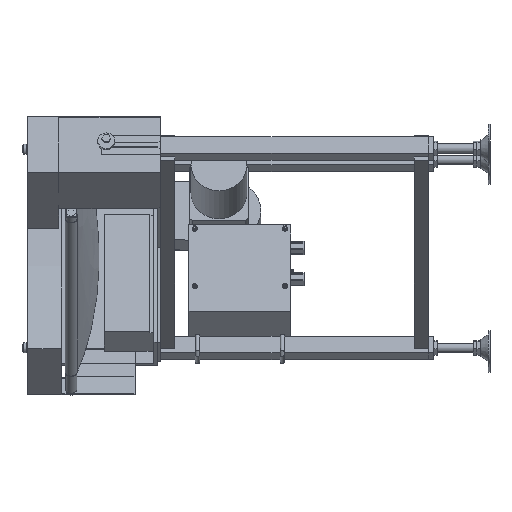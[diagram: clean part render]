
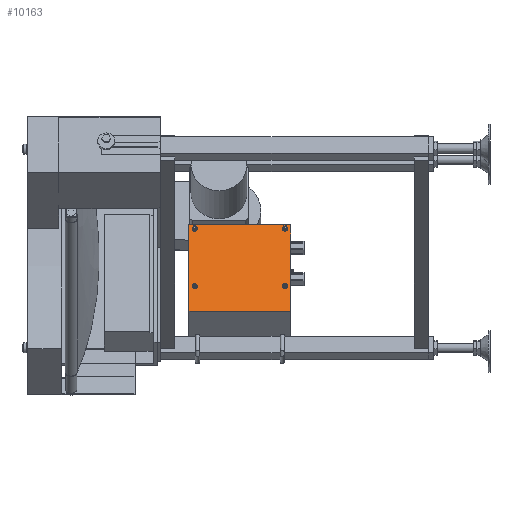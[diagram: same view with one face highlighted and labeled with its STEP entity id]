
A CAD part, left-side view. The second image highlights one B-rep face of the part: STEP entity #10163.
In plain terms, the highlighted planar face has unit normal (-0.924, 0, 0.383).
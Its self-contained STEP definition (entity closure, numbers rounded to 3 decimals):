
#73 = CARTESIAN_POINT ( 'NONE',  ( 419.984, -227.5, -300.062 ) ) ;
#863 = ORIENTED_EDGE ( 'NONE', *, *, #35443, .F. ) ;
#1066 = EDGE_LOOP ( 'NONE', ( #10172 ) ) ;
#1144 = AXIS2_PLACEMENT_3D ( 'NONE', #39322, #39165, #6074 ) ;
#1233 = VERTEX_POINT ( 'NONE', #17608 ) ;
#1258 = CARTESIAN_POINT ( 'NONE',  ( 464.949, -217.5, -191.506 ) ) ;
#1429 = LINE ( 'NONE', #9455, #7661 ) ;
#1673 = DIRECTION ( 'NONE',  ( 0.924, 0., -0.383 ) ) ;
#1713 = DIRECTION ( 'NONE',  ( 0., 1., 0. ) ) ;
#1848 = VERTEX_POINT ( 'NONE', #1258 ) ;
#1860 = VERTEX_POINT ( 'NONE', #8062 ) ;
#2039 = CIRCLE ( 'NONE', #1144, 4.5 ) ;
#2276 = CARTESIAN_POINT ( 'NONE',  ( 464.949, -397.5, -191.506 ) ) ;
#3130 = DIRECTION ( 'NONE',  ( 0.383, 0., 0.924 ) ) ;
#4137 = FACE_BOUND ( 'NONE', #1066, .T. ) ;
#4486 = CIRCLE ( 'NONE', #26946, 4.5 ) ;
#4662 = CARTESIAN_POINT ( 'NONE',  ( 460.357, -227.5, -202.592 ) ) ;
#5503 = EDGE_CURVE ( 'NONE', #15219, #1848, #25844, .T. ) ;
#5762 = EDGE_CURVE ( 'NONE', #1233, #1233, #26813, .T. ) ;
#6074 = DIRECTION ( 'NONE',  ( -0.383, 0., -0.924 ) ) ;
#6300 = ORIENTED_EDGE ( 'NONE', *, *, #15850, .F. ) ;
#6481 = DIRECTION ( 'NONE',  ( 0.383, 0., 0.924 ) ) ;
#6751 = CARTESIAN_POINT ( 'NONE',  ( 417.114, -397.5, -306.991 ) ) ;
#7661 = VECTOR ( 'NONE', #1713, 1000. ) ;
#7962 = VERTEX_POINT ( 'NONE', #19036 ) ;
#8062 = CARTESIAN_POINT ( 'NONE',  ( 401.806, -217.5, -343.946 ) ) ;
#9455 = CARTESIAN_POINT ( 'NONE',  ( 401.806, -562.424, -343.946 ) ) ;
#10163 = ADVANCED_FACE ( 'NONE', ( #42035, #4137, #11522, #29936, #46608 ), #17637, .T. ) ;
#10172 = ORIENTED_EDGE ( 'NONE', *, *, #33109, .T. ) ;
#10998 = LINE ( 'NONE', #16510, #23110 ) ;
#11503 = CARTESIAN_POINT ( 'NONE',  ( 418.262, -387.5, -304.219 ) ) ;
#11522 = FACE_BOUND ( 'NONE', #44756, .T. ) ;
#12108 = CARTESIAN_POINT ( 'NONE',  ( 419.984, -387.5, -300.062 ) ) ;
#12497 = EDGE_CURVE ( 'NONE', #23502, #15219, #34446, .T. ) ;
#12654 = ORIENTED_EDGE ( 'NONE', *, *, #34022, .T. ) ;
#12669 = EDGE_LOOP ( 'NONE', ( #31904, #863, #6300, #37268 ) ) ;
#12732 = AXIS2_PLACEMENT_3D ( 'NONE', #12108, #15803, #41556 ) ;
#14584 = CIRCLE ( 'NONE', #12732, 4.5 ) ;
#15219 = VERTEX_POINT ( 'NONE', #2276 ) ;
#15803 = DIRECTION ( 'NONE',  ( 0.924, 0., -0.383 ) ) ;
#15850 = EDGE_CURVE ( 'NONE', #23502, #1860, #1429, .T. ) ;
#16510 = CARTESIAN_POINT ( 'NONE',  ( 417.114, -217.5, -306.991 ) ) ;
#17608 = CARTESIAN_POINT ( 'NONE',  ( 418.262, -227.5, -304.219 ) ) ;
#17637 = PLANE ( 'NONE',  #43436 ) ;
#18300 = ORIENTED_EDGE ( 'NONE', *, *, #38198, .T. ) ;
#19036 = CARTESIAN_POINT ( 'NONE',  ( 460.357, -387.5, -202.592 ) ) ;
#19139 = DIRECTION ( 'NONE',  ( 0., 1., 0. ) ) ;
#20625 = VECTOR ( 'NONE', #6481, 1000. ) ;
#20640 = VECTOR ( 'NONE', #19139, 1000. ) ;
#21340 = DIRECTION ( 'NONE',  ( -0.924, 0., 0.383 ) ) ;
#21370 = CARTESIAN_POINT ( 'NONE',  ( 417.114, -397.5, -306.991 ) ) ;
#21384 = ORIENTED_EDGE ( 'NONE', *, *, #5762, .T. ) ;
#22163 = CARTESIAN_POINT ( 'NONE',  ( 401.806, -397.5, -343.946 ) ) ;
#23110 = VECTOR ( 'NONE', #31011, 1000. ) ;
#23502 = VERTEX_POINT ( 'NONE', #22163 ) ;
#25671 = DIRECTION ( 'NONE',  ( 0.924, 0., -0.383 ) ) ;
#25844 = LINE ( 'NONE', #37663, #20640 ) ;
#26813 = CIRCLE ( 'NONE', #33260, 4.5 ) ;
#26946 = AXIS2_PLACEMENT_3D ( 'NONE', #27596, #1673, #38708 ) ;
#27596 = CARTESIAN_POINT ( 'NONE',  ( 462.079, -227.5, -198.435 ) ) ;
#29936 = FACE_BOUND ( 'NONE', #39251, .T. ) ;
#31011 = DIRECTION ( 'NONE',  ( 0.383, 0., 0.924 ) ) ;
#31904 = ORIENTED_EDGE ( 'NONE', *, *, #5503, .T. ) ;
#33109 = EDGE_CURVE ( 'NONE', #33274, #33274, #14584, .T. ) ;
#33204 = DIRECTION ( 'NONE',  ( -0.383, 0., -0.924 ) ) ;
#33260 = AXIS2_PLACEMENT_3D ( 'NONE', #73, #25671, #33204 ) ;
#33274 = VERTEX_POINT ( 'NONE', #11503 ) ;
#33409 = EDGE_LOOP ( 'NONE', ( #12654 ) ) ;
#34022 = EDGE_CURVE ( 'NONE', #39633, #39633, #4486, .T. ) ;
#34446 = LINE ( 'NONE', #21370, #20625 ) ;
#35443 = EDGE_CURVE ( 'NONE', #1860, #1848, #10998, .T. ) ;
#37268 = ORIENTED_EDGE ( 'NONE', *, *, #12497, .T. ) ;
#37663 = CARTESIAN_POINT ( 'NONE',  ( 464.949, -421., -191.506 ) ) ;
#38198 = EDGE_CURVE ( 'NONE', #7962, #7962, #2039, .T. ) ;
#38708 = DIRECTION ( 'NONE',  ( -0.383, 0., -0.924 ) ) ;
#39165 = DIRECTION ( 'NONE',  ( 0.924, 0., -0.383 ) ) ;
#39251 = EDGE_LOOP ( 'NONE', ( #21384 ) ) ;
#39322 = CARTESIAN_POINT ( 'NONE',  ( 462.079, -387.5, -198.435 ) ) ;
#39633 = VERTEX_POINT ( 'NONE', #4662 ) ;
#41556 = DIRECTION ( 'NONE',  ( -0.383, 0., -0.924 ) ) ;
#42035 = FACE_OUTER_BOUND ( 'NONE', #12669, .T. ) ;
#43436 = AXIS2_PLACEMENT_3D ( 'NONE', #6751, #21340, #3130 ) ;
#44756 = EDGE_LOOP ( 'NONE', ( #18300 ) ) ;
#46608 = FACE_BOUND ( 'NONE', #33409, .T. ) ;
